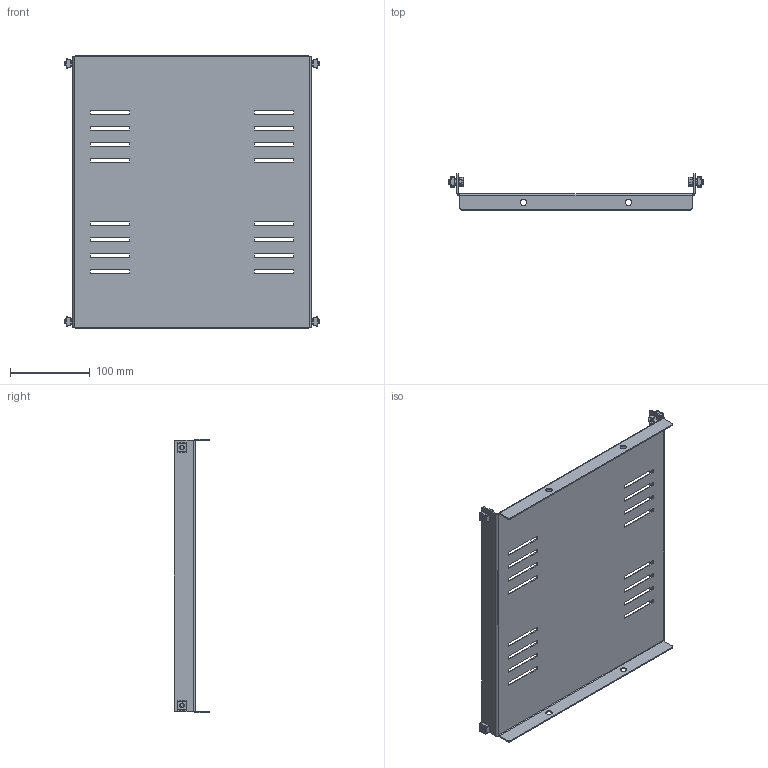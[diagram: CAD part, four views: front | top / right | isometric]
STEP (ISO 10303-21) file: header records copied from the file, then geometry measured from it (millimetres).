
FILE_DESCRIPTION (( 'STEP AP203' ), '1' );
FILE_NAME ('R5RF440.STEP', '2019-08-07T13:30:16', ( '' ), ( '' ), 'SwSTEP 2.0', 'SolidWorks 2017', '' );
FILE_SCHEMA (( 'CONFIG_CONTROL_DESIGN' ));
Length unit declared in the file: millimetre
Products named in the file (13): A1100004; QB09C433; R5RF440; A3400008
Assembly tree (9 placements, depth 2):
  A1100004
  QB09C433
  A1100004
  A1100004
  R5RF440
    QB09C433
    A1100004  x4
    A3400008  x4
Bounding box: 320 x 45 x 344 mm (x, y, z)
Volume: 194046.3 mm3; surface area: 263064 mm2
Topology: 9 solids, 9 shells, 786 faces, 2188 edges, 1420 vertices
Faces by surface type: plane 450, cylinder 248, cone 72, torus 16
Entity records: 11056 total; most frequent: CARTESIAN_POINT 1985, ORIENTED_EDGE 1664, DIRECTION 1590, EDGE_CURVE 832, LINE 576, VECTOR 576, VERTEX_POINT 538, AXIS2_PLACEMENT_3D 507
